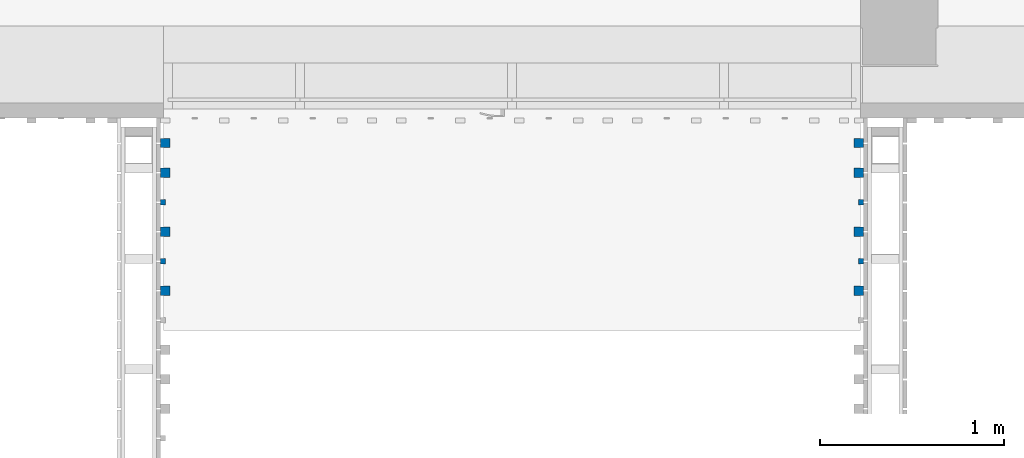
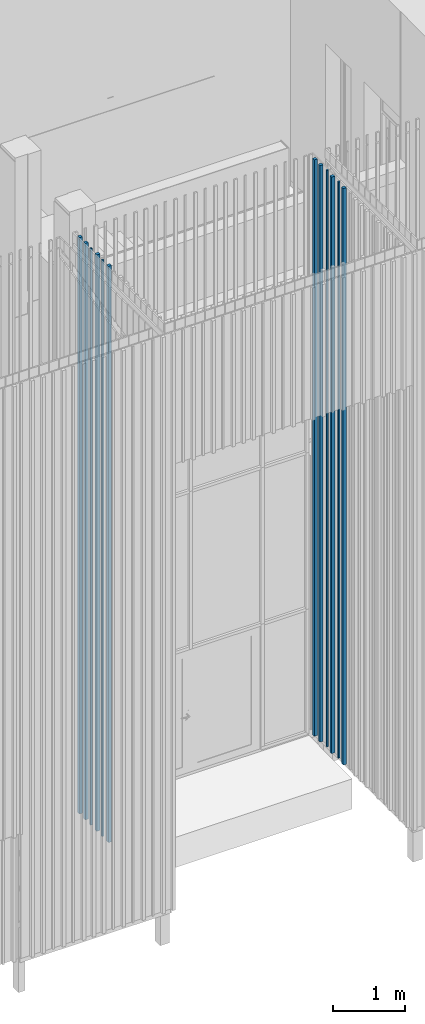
# One storey, part 15 of 390: 12 walls.
"""IFC2X3 building model written with IfcOpenShell, lengths in millimetres."""

from ifc_helpers import new_model, entity, si_unit, converted_unit, derived_unit, money_unit, direction, frame, origin_with_axes, origin_2d_with_axis, place, context, subcontext, project, spatial, rectangle, extrude, material, type_object, element, save


model = new_model("IFC2X3")

# Units and contexts
model_context = context("Model", 3, precision=1e-05, world=origin_with_axes(), true_north=direction((0.0, 1.0)))
body_context = subcontext(model_context, "Body", "Model", "MODEL_VIEW")
ifc_project = project(units=[si_unit("LENGTHUNIT", "METRE", prefix="MILLI"), si_unit("AREAUNIT", "SQUARE_METRE"), si_unit("VOLUMEUNIT", "CUBIC_METRE"), converted_unit("PLANEANGLEUNIT", "DEGREE", entity("IfcPlaneAngleMeasure", 0.0174532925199), si_unit("PLANEANGLEUNIT", "RADIAN"), dimensions=[0, 0, 0, 0, 0, 0, 0]), si_unit("SOLIDANGLEUNIT", "STERADIAN"), money_unit("EUR"), converted_unit("TIMEUNIT", "Year", entity("IfcTimeMeasure", 31556926.0), si_unit("TIMEUNIT", "SECOND"), dimensions=[0, 0, 1, 0, 0, 0, 0]), si_unit("MASSUNIT", "GRAM", prefix="KILO"), si_unit("THERMODYNAMICTEMPERATUREUNIT", "DEGREE_CELSIUS"), si_unit("LUMINOUSINTENSITYUNIT", "LUMEN"), si_unit("ENERGYUNIT", "JOULE", prefix="MEGA"), derived_unit("THERMALCONDUCTANCEUNIT", [(si_unit("POWERUNIT", "WATT"), 1), (si_unit("LENGTHUNIT", "METRE"), -1), (si_unit("THERMODYNAMICTEMPERATUREUNIT", "KELVIN"), -1)]), derived_unit("SPECIFICHEATCAPACITYUNIT", [(si_unit("ENERGYUNIT", "JOULE"), 1), (si_unit("MASSUNIT", "GRAM", prefix="KILO"), -1), (si_unit("THERMODYNAMICTEMPERATUREUNIT", "KELVIN"), -1)]), derived_unit("MASSDENSITYUNIT", [(si_unit("MASSUNIT", "GRAM", prefix="KILO"), 1), (si_unit("VOLUMEUNIT", "CUBIC_METRE"), -1)])], contexts=[model_context])

# Site, building, storey
site_placement = place(None, origin_with_axes())
site = spatial("IfcSite", under=ifc_project, at=site_placement, Name="Site", CompositionType="ELEMENT")
building_placement = place(site_placement, origin_with_axes())
building = spatial("IfcBuilding", under=site, at=building_placement, Name="Building", CompositionType="ELEMENT")
storey_placement = place(building_placement, origin_with_axes())
storey = spatial("IfcBuildingStorey", under=building, at=storey_placement, Name="1 korrus", CompositionType="ELEMENT", Elevation=0.0)

# Walls
ifc_material = material(Name="Site specified")
wall_type = type_object("IfcWallType", Name="Puitfassaadi ribistik", PredefinedType="NOTDEFINED")
wall_1_placement = place(storey_placement, frame((132871.000002, 45127.0000099, 100.000000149), z_axis=(0.0, 0.0, 1.0), x_axis=(-1.0, 0.0, 0.0)))
element("IfcWall", 1, at=wall_1_placement, inside=storey, type_object=wall_type, material=ifc_material, Name="Site specified", context=body_context, shape_type="SweptSolid", body=[
    extrude(rectangle(XDim=50.0, YDim=49.9999999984, at=origin_2d_with_axis()), origin_with_axes(), (0.0, 0.0, 1.0), 9764.99999985),
])
for number, where, z_axis, x_axis, name in (
    (2, (132882.000044, 44485.0000099, 100.000000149), (0.0, 0.0, 1.0), (-1.0, 0.0, 0.0), "Site specified"),
    (3, (129097.999986, 44485.0000337, 100.000000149), (0.0, 0.0, 1.0), (0.0, -1.0, 0.0), "Site specified"),
    (4, (129097.999978, 44805.0000337, 100.000000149), (0.0, 0.0, 1.0), (0.0, -1.0, 0.0), "Site specified"),
):
    element("IfcWall", number, at=place(storey_placement, frame(where, z_axis=z_axis, x_axis=x_axis)), inside=storey, type_object=wall_type, material=ifc_material, Name=name, context=body_context, shape_type="SweptSolid", body=[
        extrude(rectangle(XDim=28.0, YDim=28.0, at=origin_2d_with_axis()), origin_with_axes(), (0.0, 0.0, 1.0), 9764.99999985),
    ])
for number, where, z_axis, x_axis, name in (
    (5, (129108.999986, 44325.0000337, 100.000000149), (0.0, 0.0, 1.0), (0.0, -1.0, 0.0), "Site specified"),
    (6, (129109.000036, 44645.0000337, 100.000000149), (0.0, 0.0, 1.0), (0.0, -1.0, 0.0), "Site specified"),
    (7, (129109.000028, 44965.0000337, 100.000000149), (0.0, 0.0, 1.0), (0.0, -1.0, 0.0), "Site specified"),
    (8, (129109.000028, 45127.0000337, 100.000000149), (0.0, 0.0, 1.0), (0.0, -1.0, 0.0), "Site specified"),
):
    element("IfcWall", number, at=place(storey_placement, frame(where, z_axis=z_axis, x_axis=x_axis)), inside=storey, type_object=wall_type, material=ifc_material, Name=name, context=body_context, shape_type="SweptSolid", body=[
        extrude(rectangle(XDim=50.0, YDim=50.0, at=origin_2d_with_axis()), origin_with_axes(), (0.0, 0.0, 1.0), 9764.99999985),
    ])
for number, where, z_axis, x_axis, name in (
    (9, (132871.000044, 44325.0000099, 100.000000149), (0.0, 0.0, 1.0), (-1.0, 0.0, 0.0), "Site specified"),
    (10, (132871.000002, 44965.0000099, 100.000000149), (0.0, 0.0, 1.0), (-1.0, 0.0, 0.0), "Site specified"),
    (11, (132870.999994, 44645.0000099, 100.000000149), (0.0, 0.0, 1.0), (-1.0, 0.0, 0.0), "Site specified"),
):
    element("IfcWall", number, at=place(storey_placement, frame(where, z_axis=z_axis, x_axis=x_axis)), inside=storey, type_object=wall_type, material=ifc_material, Name=name, context=body_context, shape_type="SweptSolid", body=[
        extrude(rectangle(XDim=50.0, YDim=49.9999999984, at=origin_2d_with_axis()), origin_with_axes(), (0.0, 0.0, 1.0), 9764.99999985),
    ])
wall_2_placement = place(storey_placement, frame((132882.000052, 44805.0000099, 100.000000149), z_axis=(0.0, 0.0, 1.0), x_axis=(-1.0, 0.0, 0.0)))
element("IfcWall", 12, at=wall_2_placement, inside=storey, type_object=wall_type, material=ifc_material, Name="Site specified", context=body_context, shape_type="SweptSolid", body=[
    extrude(rectangle(XDim=28.0, YDim=28.0, at=origin_2d_with_axis()), origin_with_axes(), (0.0, 0.0, 1.0), 9764.99999985),
])

save(model, "model.ifc")
